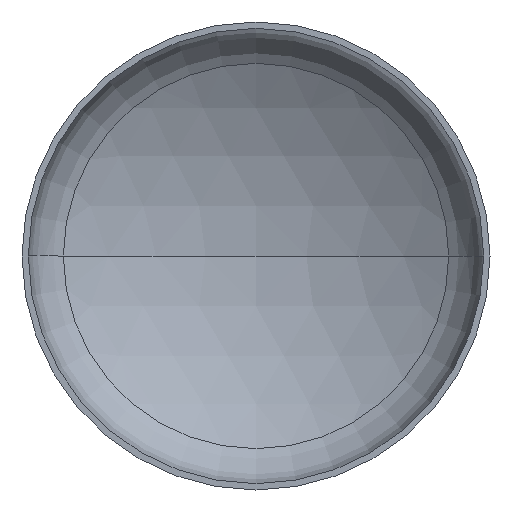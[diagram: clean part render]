
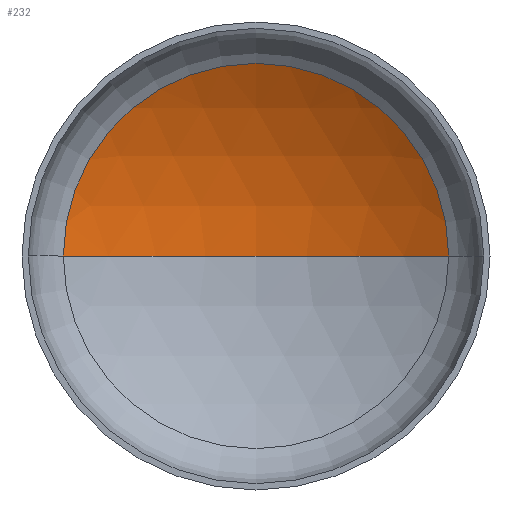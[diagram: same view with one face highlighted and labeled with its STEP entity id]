
A CAD part, front view. The second image highlights one B-rep face of the part: STEP entity #232.
In plain terms, the highlighted spherical face has radius 4000 mm.
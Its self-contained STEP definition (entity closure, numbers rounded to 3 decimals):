
#4 = EDGE_LOOP ( 'NONE', ( #146, #202, #86 ) ) ;
#23 = AXIS2_PLACEMENT_3D ( 'NONE', #166, #330, #186 ) ;
#27 = AXIS2_PLACEMENT_3D ( 'NONE', #168, #333, #337 ) ;
#28 = VERTEX_POINT ( 'NONE', #250 ) ;
#67 = AXIS2_PLACEMENT_3D ( 'NONE', #401, #356, #282 ) ;
#78 = VERTEX_POINT ( 'NONE', #375 ) ;
#86 = ORIENTED_EDGE ( 'NONE', *, *, #344, .T. ) ;
#120 = VERTEX_POINT ( 'NONE', #352 ) ;
#134 = AXIS2_PLACEMENT_3D ( 'NONE', #339, #195, #362 ) ;
#146 = ORIENTED_EDGE ( 'NONE', *, *, #391, .F. ) ;
#166 = CARTESIAN_POINT ( 'NONE',  ( 0., -2649.595, 0. ) ) ;
#168 = CARTESIAN_POINT ( 'NONE',  ( 0., 780.244, 0. ) ) ;
#186 = DIRECTION ( 'NONE',  ( -1., 0., 0. ) ) ;
#195 = DIRECTION ( 'NONE',  ( 0., 0., 1. ) ) ;
#202 = ORIENTED_EDGE ( 'NONE', *, *, #346, .T. ) ;
#232 = ADVANCED_FACE ( 'NONE', ( #410 ), #234, .F. ) ;
#234 = SPHERICAL_SURFACE ( 'NONE', #67, 4000. ) ;
#250 = CARTESIAN_POINT ( 'NONE',  ( 2058.204, 780.244, 0. ) ) ;
#269 = CIRCLE ( 'NONE', #27, 2058.204 ) ;
#282 = DIRECTION ( 'NONE',  ( -1., 0., 0. ) ) ;
#330 = DIRECTION ( 'NONE',  ( 0., 0., -1. ) ) ;
#331 = CIRCLE ( 'NONE', #23, 4000. ) ;
#333 = DIRECTION ( 'NONE',  ( 0., -1., 0. ) ) ;
#337 = DIRECTION ( 'NONE',  ( 1., 0., 0. ) ) ;
#339 = CARTESIAN_POINT ( 'NONE',  ( 0., -2649.595, 0. ) ) ;
#344 = EDGE_CURVE ( 'NONE', #28, #78, #269, .T. ) ;
#346 = EDGE_CURVE ( 'NONE', #120, #28, #331, .T. ) ;
#352 = CARTESIAN_POINT ( 'NONE',  ( 0., 1350.405, 0. ) ) ;
#356 = DIRECTION ( 'NONE',  ( 0., 0., -1. ) ) ;
#362 = DIRECTION ( 'NONE',  ( 1., 0., 0. ) ) ;
#375 = CARTESIAN_POINT ( 'NONE',  ( -2058.204, 780.244, 0. ) ) ;
#378 = CIRCLE ( 'NONE', #134, 4000. ) ;
#391 = EDGE_CURVE ( 'NONE', #120, #78, #378, .T. ) ;
#401 = CARTESIAN_POINT ( 'NONE',  ( 0., -2649.595, 0. ) ) ;
#410 = FACE_OUTER_BOUND ( 'NONE', #4, .T. ) ;
